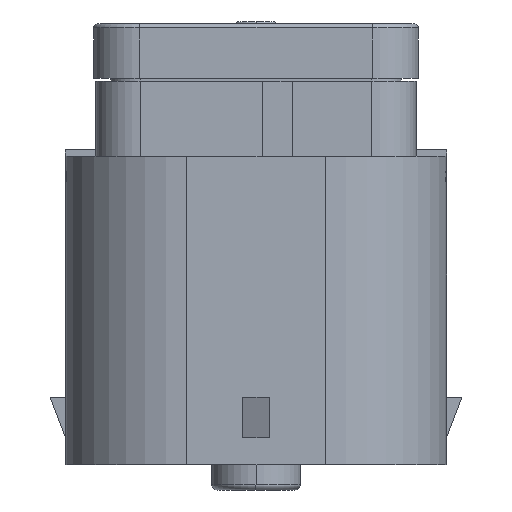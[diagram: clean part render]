
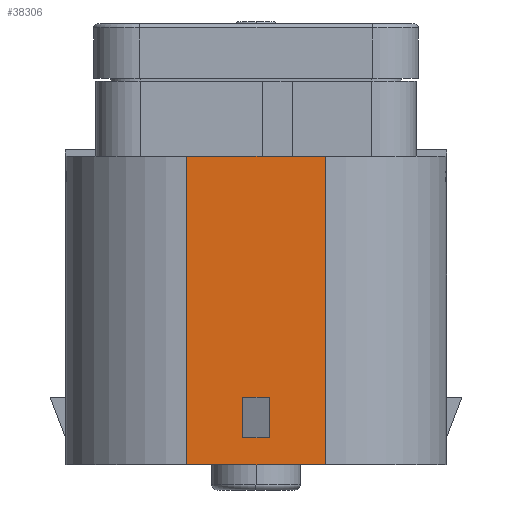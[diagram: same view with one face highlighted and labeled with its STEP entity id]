
A CAD part, left-side view. The second image highlights one B-rep face of the part: STEP entity #38306.
In plain terms, the highlighted planar face has unit normal (-1, 0, 0).
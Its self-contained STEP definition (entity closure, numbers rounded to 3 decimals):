
#9729=DIRECTION('',(0.,0.,-1.));
#9730=VECTOR('',#9729,29.21);
#9731=CARTESIAN_POINT('',(-51.994,6.541,-12.522));
#9732=LINE('',#9731,#9730);
#9834=DIRECTION('',(0.,0.,1.));
#9835=VECTOR('',#9834,3.81);
#9836=CARTESIAN_POINT('',(-51.994,1.27,-39.192));
#9837=LINE('',#9836,#9835);
#9838=DIRECTION('',(0.,0.,1.));
#9839=VECTOR('',#9838,3.81);
#9840=CARTESIAN_POINT('',(-51.994,-1.27,-39.192));
#9841=LINE('',#9840,#9839);
#9842=DIRECTION('',(0.,1.,0.));
#9843=VECTOR('',#9842,2.54);
#9844=CARTESIAN_POINT('',(-51.994,-1.27,-35.382));
#9845=LINE('',#9844,#9843);
#9846=DIRECTION('',(0.,0.,-1.));
#9847=VECTOR('',#9846,29.21);
#9848=CARTESIAN_POINT('',(-51.994,-6.541,-12.522));
#9849=LINE('',#9848,#9847);
#9850=DIRECTION('',(0.,-1.,0.));
#9851=VECTOR('',#9850,13.081);
#9852=CARTESIAN_POINT('',(-51.994,6.541,-12.522));
#9853=LINE('',#9852,#9851);
#9890=DIRECTION('',(0.,1.,0.));
#9891=VECTOR('',#9890,2.54);
#9892=CARTESIAN_POINT('',(-51.994,-1.27,-39.192));
#9893=LINE('',#9892,#9891);
#9990=DIRECTION('',(0.,1.,0.));
#9991=VECTOR('',#9990,13.081);
#9992=CARTESIAN_POINT('',(-51.994,-6.541,-41.732));
#9993=LINE('',#9992,#9991);
#19963=CARTESIAN_POINT('',(-51.994,6.541,-12.522));
#19964=CARTESIAN_POINT('',(-51.994,-6.541,-12.522));
#19965=VERTEX_POINT('',#19963);
#19966=VERTEX_POINT('',#19964);
#20059=CARTESIAN_POINT('',(-51.994,-1.27,-35.382));
#20060=CARTESIAN_POINT('',(-51.994,1.27,-35.382));
#20061=VERTEX_POINT('',#20059);
#20062=VERTEX_POINT('',#20060);
#20201=CARTESIAN_POINT('',(-51.994,-6.541,-41.732));
#20202=VERTEX_POINT('',#20201);
#20203=CARTESIAN_POINT('',(-51.994,6.541,-41.732));
#20204=VERTEX_POINT('',#20203);
#20219=CARTESIAN_POINT('',(-51.994,-1.27,-39.192));
#20220=CARTESIAN_POINT('',(-51.994,1.27,-39.192));
#20221=VERTEX_POINT('',#20219);
#20222=VERTEX_POINT('',#20220);
#38283=CARTESIAN_POINT('',(-51.994,6.541,-11.938));
#38284=DIRECTION('',(-1.,0.,0.));
#38285=DIRECTION('',(0.,-1.,0.));
#38286=AXIS2_PLACEMENT_3D('',#38283,#38284,#38285);
#38287=PLANE('',#38286);
#38289=ORIENTED_EDGE('',*,*,#38288,.T.);
#38291=ORIENTED_EDGE('',*,*,#38290,.T.);
#38292=ORIENTED_EDGE('',*,*,#38220,.F.);
#38293=ORIENTED_EDGE('',*,*,#37181,.T.);
#38294=EDGE_LOOP('',(#38289,#38291,#38292,#38293));
#38295=FACE_OUTER_BOUND('',#38294,.F.);
#38297=ORIENTED_EDGE('',*,*,#38296,.F.);
#38299=ORIENTED_EDGE('',*,*,#38298,.F.);
#38301=ORIENTED_EDGE('',*,*,#38300,.T.);
#38303=ORIENTED_EDGE('',*,*,#38302,.T.);
#38304=EDGE_LOOP('',(#38297,#38299,#38301,#38303));
#38305=FACE_BOUND('',#38304,.F.);
#38306=ADVANCED_FACE('',(#38295,#38305),#38287,.T.);
#37181=EDGE_CURVE('',#19965,#19966,#9853,.T.);
#38220=EDGE_CURVE('',#19965,#20204,#9732,.T.);
#38288=EDGE_CURVE('',#19966,#20202,#9849,.T.);
#38290=EDGE_CURVE('',#20202,#20204,#9993,.T.);
#38296=EDGE_CURVE('',#20222,#20062,#9837,.T.);
#38298=EDGE_CURVE('',#20221,#20222,#9893,.T.);
#38300=EDGE_CURVE('',#20221,#20061,#9841,.T.);
#38302=EDGE_CURVE('',#20061,#20062,#9845,.T.);
